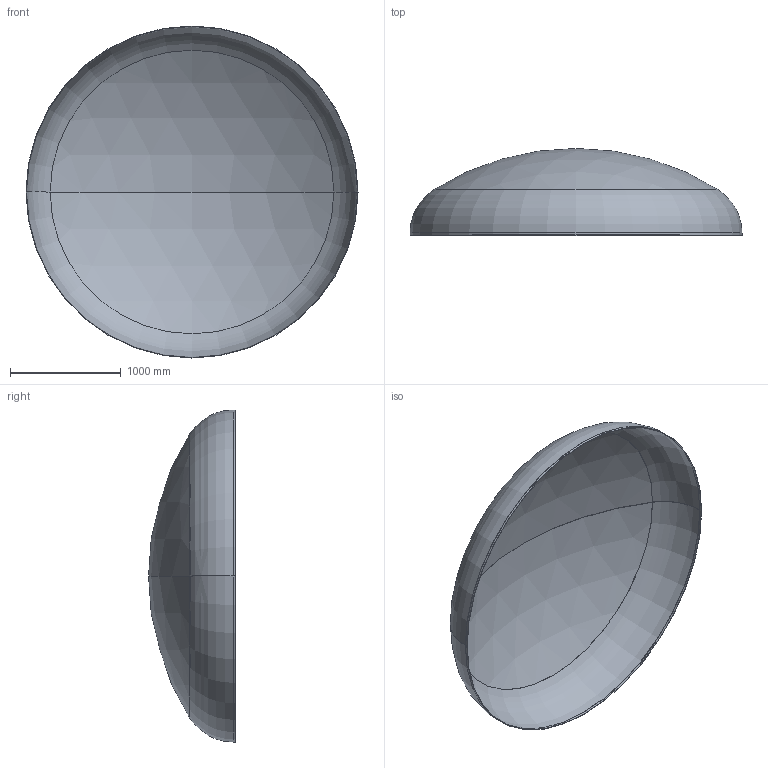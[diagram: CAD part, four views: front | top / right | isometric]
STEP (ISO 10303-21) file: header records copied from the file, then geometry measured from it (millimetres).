
FILE_DESCRIPTION (( 'STEP AP203' ), '1' );
FILE_NAME ('DIN 28013 Korbbogenform_-_Boden DIN 28013 - 3000 x 20 - I - s=4.step', '2016-07-01T17:24:52', ( '' ), ( '' ), 'SwSTEP 2.0', 'SolidWorks 2013', '' );
FILE_SCHEMA (( 'CONFIG_CONTROL_DESIGN' ));
Length unit declared in the file: millimetre
Products named in the file (1): DIN 28013 Korbbogenform_-_Boden DIN 28013 - 3000 x 20 - I - s=4
Bounding box: 3000 x 783.79 x 3000 mm (x, y, z)
Volume: 39814945.5 mm3; surface area: 19945146.9 mm2
Topology: 1 solids, 1 shells, 13 faces, 24 edges, 14 vertices
Faces by surface type: torus 4, cylinder 4, sphere 4, plane 1
Entity records: 407 total; most frequent: DIRECTION 72, CARTESIAN_POINT 52, ORIENTED_EDGE 48, AXIS2_PLACEMENT_3D 34, EDGE_CURVE 24, CIRCLE 20, EDGE_LOOP 14, VERTEX_POINT 14
